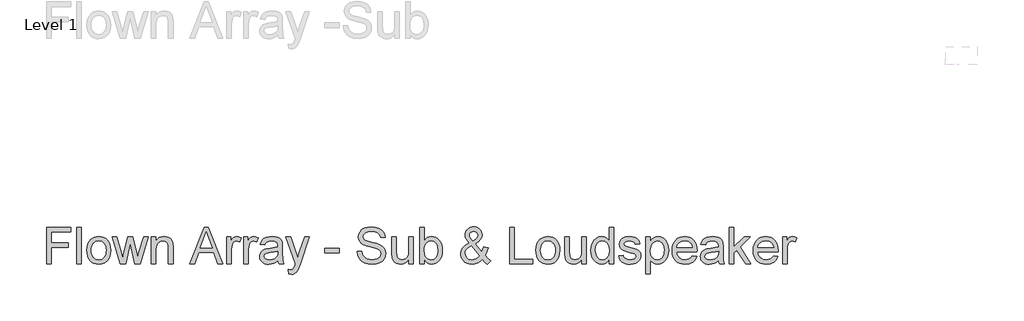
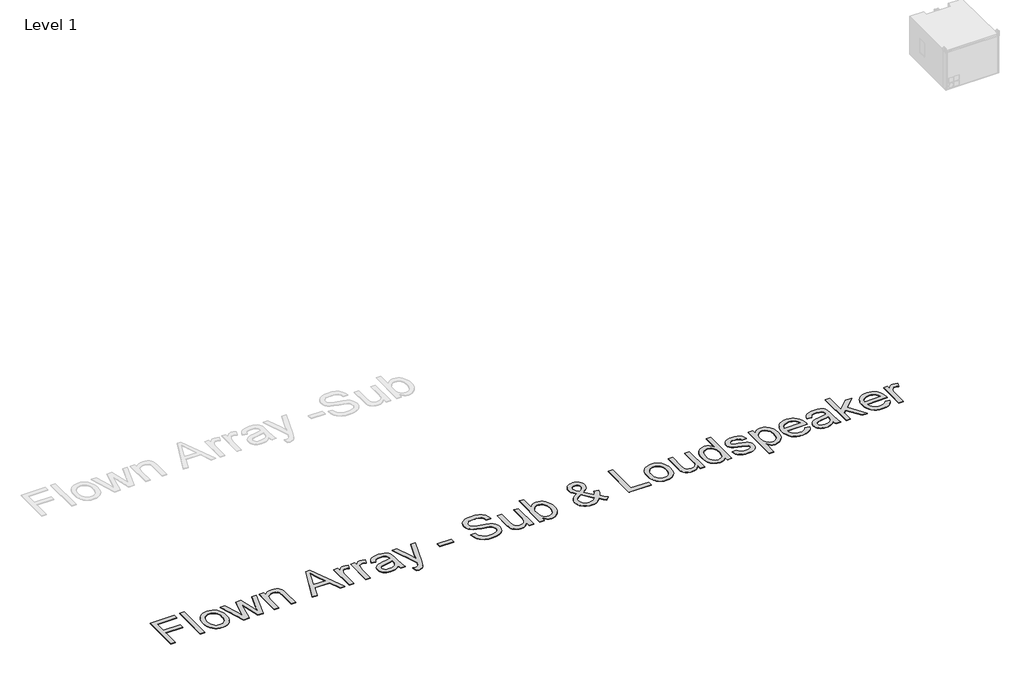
# One storey, part 26 of 31: 1 proxy.
"""IFC4 building model written with IfcOpenShell, lengths in millimetres."""

from ifc_helpers import new_model, si_unit, origin, origin_with_axes, place, context, project, spatial, polyline, outline, extrude, element, save

model = new_model("IFC4")

# Units and contexts
model_context = context("Model", 3, world=origin())
ifc_project = project(units=[si_unit("LENGTHUNIT", "METRE", prefix="MILLI")], contexts=[model_context])

# Site, building, storey
site = spatial("IfcSite", under=ifc_project)
building = spatial("IfcBuilding", under=site)
storey = spatial("IfcBuildingStorey", under=building, Name="Level 1", Elevation=0.0)

# Proxy
placement = place(None, origin())
element("IfcBuildingElementProxy", 1, Name="400mm Arial", ObjectType="400mm Arial", at=placement, inside=storey, context=model_context, shape_type="SweptSolid", body=[
    extrude(outline(polyline([(1720.3436653, 1663.8227268), (1720.3436653, 2065.6479674), (1990.3199988, 2065.6479674), (1990.3199988, 2015.4198123), (1770.5718204, 2015.4198123), (1770.5718204, 1896.127944), (1958.9274019, 1896.127944), (1958.9274019, 1845.899789), (1770.5718204, 1845.899789), (1770.5718204, 1663.8227268), (1720.3436653, 1663.8227268)])), origin_with_axes(), (0.0, 0.0, 1.0), 5.0),
    extrude(outline(polyline([(2053.1051927, 1663.8227268), (2053.1051927, 2065.6479674), (2103.3333477, 2065.6479674), (2103.3333477, 1663.8227268), (2053.1051927, 1663.8227268)])), origin_with_axes(), (0.0, 0.0, 1.0), 5.0),
    extrude(outline(polyline([(2166.1185416, 1811.3679324), (2168.834737, 1849.5847403), (2176.9833232, 1882.5163102), (2190.5643002, 1910.1626422), (2209.5776679, 1932.5237361), (2228.7197944, 1946.8159516), (2249.8484837, 1957.024677), (2272.9637357, 1963.1499122), (2298.0655505, 1965.1916573), (2325.7762618, 1962.7053881), (2350.8320914, 1955.2465807), (2373.2330392, 1942.8152349), (2392.9791053, 1925.4113509), (2409.0954024, 1903.6235397), (2420.6070431, 1878.0404126), (2427.5140276, 1848.6619696), (2429.8163557, 1815.4882107), (2425.7451283, 1764.7450208), (2413.5314461, 1726.1174113), (2393.5309283, 1697.1896238), (2366.0991942, 1675.5458997), (2333.5171121, 1662.0446305), (2298.0655505, 1657.5442074), (2269.950169, 1660.0212795), (2244.6613476, 1667.4524958), (2222.1990861, 1679.8378563), (2202.5633846, 1697.177361), (2186.6187658, 1719.1767044), (2175.2297523, 1745.5415807), (2168.3963443, 1776.27199), (2166.1185416, 1811.3679324)]), holes=[polyline([(2216.3466967, 1811.4660342), (2217.7998305, 1787.1030491), (2222.1592322, 1766.0080823), (2229.4249016, 1748.181134), (2239.5968388, 1733.622204), (2251.9699365, 1722.3128984), (2265.8390877, 1714.2348229), (2281.2042924, 1709.3879776), (2298.0655505, 1707.7723625), (2314.8409695, 1709.3971747), (2330.1448605, 1714.2716111), (2343.9772235, 1722.3956718), (2356.3380586, 1733.7693568), (2366.5099957, 1748.4723739), (2373.7756651, 1766.5844308), (2378.1350668, 1788.1055275), (2379.5882007, 1813.0356641), (2378.1258697, 1836.626097), (2373.7388769, 1857.1692408), (2366.4272223, 1874.6650953), (2356.1909058, 1889.1136607), (2343.7840855, 1900.4229663), (2329.9609195, 1908.5010418), (2314.7214079, 1913.3478871), (2298.0655505, 1914.9635022), (2281.2042924, 1913.3540185), (2265.8390877, 1908.5255673), (2251.9699365, 1900.4781486), (2239.5968388, 1889.2117625), (2229.4249016, 1874.6957521), (2222.1592322, 1856.8994606), (2217.7998305, 1835.822888), (2216.3466967, 1811.4660342)])]), origin_with_axes(), (0.0, 0.0, 1.0), 5.0),
    extrude(outline(polyline([(2535.6682685, 1663.8227268), (2445.5126542, 1958.9131379), (2497.6047447, 1958.9131379), (2548.6177147, 1786.7443641), (2563.8235038, 1725.2344945), (2576.2824407, 1784.4880212), (2616.7985111, 1958.9131379), (2676.4444453, 1958.9131379), (2716.9605157, 1784.9785306), (2728.0460265, 1731.3168102), (2743.9385287, 1787.9215865), (2794.9514987, 1958.9131379), (2847.3378948, 1958.9131379), (2756.8879749, 1663.8227268), (2696.2610221, 1663.8227268), (2657.6088871, 1836.8744174), (2646.4252745, 1890.8304433), (2596.6876287, 1663.8227268), (2535.6682685, 1663.8227268)])), origin_with_axes(), (0.0, 0.0, 1.0), 5.0),
    extrude(outline(polyline([(2881.8697514, 1663.8227268), (2881.8697514, 1958.9131379), (2932.0979065, 1958.9131379), (2932.0979065, 1917.7103544), (2949.5477758, 1938.4834244), (2970.5047868, 1953.3213316), (2994.9689395, 1962.2240758), (3022.9402338, 1965.1916573), (3047.6986921, 1962.8004243), (3070.3724857, 1955.6267254), (3089.2816203, 1944.5657401), (3102.7461013, 1930.5126479), (3111.8818375, 1913.5042369), (3117.8047376, 1893.5772955), (3120.453488, 1845.0168722), (3120.453488, 1663.8227268), (3070.2253329, 1663.8227268), (3070.2253329, 1838.2478435), (3068.7783304, 1864.2203123), (3064.4373229, 1882.6879885), (3056.4297581, 1895.9194776), (3043.9830839, 1906.1833852), (3028.0292681, 1912.768473), (3009.5002783, 1914.9635022), (2980.0819814, 1910.0338835), (2955.004692, 1895.2450273), (2944.9829734, 1883.1723664), (2937.8246029, 1866.672859), (2933.5295806, 1845.7465048), (2932.0979065, 1820.393304), (2932.0979065, 1663.8227268), (2881.8697514, 1663.8227268)])), origin_with_axes(), (0.0, 0.0, 1.0), 5.0),
    extrude(outline(polyline([(3306.0622173, 1663.8227268), (3466.4587672, 2065.6479674), (3509.2311805, 2065.6479674), (3669.5296285, 1663.8227268), (3616.4565194, 1663.8227268), (3570.5448464, 1789.3931145), (3404.9488976, 1789.3931145), (3359.0372246, 1663.8227268), (3306.0622173, 1663.8227268)]), holes=[polyline([(3423.3920483, 1839.6212696), (3552.1997975, 1839.6212696), (3515.9021074, 1938.409848), (3487.746872, 2015.4198123), (3462.7308963, 1947.0428122), (3423.3920483, 1839.6212696)])]), origin_with_axes(), (0.0, 0.0, 1.0), 5.0),
    extrude(outline(polyline([(3716.9128295, 1663.8227268), (3716.9128295, 1958.9131379), (3760.8624652, 1958.9131379), (3760.8624652, 1915.2578078), (3777.0983239, 1940.5680891), (3792.0588584, 1955.4795726), (3807.0684438, 1962.7636361), (3823.4514553, 1965.1916573), (3848.467431, 1961.3166336), (3873.8758141, 1949.6915625), (3857.1003951, 1904.6628063), (3839.4420594, 1912.3883282), (3821.7837236, 1914.9635022), (3806.7864009, 1912.4864301), (3793.3832336, 1905.0552138), (3782.5552402, 1893.233939), (3775.2834394, 1877.5866915), (3769.1765983, 1849.529558), (3767.1409846, 1818.921776), (3767.1409846, 1663.8227268), (3716.9128295, 1663.8227268)])), origin_with_axes(), (0.0, 0.0, 1.0), 5.0),
    extrude(outline(polyline([(3905.2684111, 1663.8227268), (3905.2684111, 1958.9131379), (3949.2180467, 1958.9131379), (3949.2180467, 1915.2578078), (3965.4539055, 1940.5680891), (3980.4144399, 1955.4795726), (3995.4240253, 1962.7636361), (4011.8070369, 1965.1916573), (4036.8230125, 1961.3166336), (4062.2313957, 1949.6915625), (4045.4559767, 1904.6628063), (4027.7976409, 1912.3883282), (4010.1393051, 1914.9635022), (3995.1419825, 1912.4864301), (3981.7388151, 1905.0552138), (3970.9108217, 1893.233939), (3963.639021, 1877.5866915), (3957.5321798, 1849.529558), (3955.4965661, 1818.921776), (3955.4965661, 1663.8227268), (3905.2684111, 1663.8227268)])), origin_with_axes(), (0.0, 0.0, 1.0), 5.0),
    extrude(outline(polyline([(4281.9795741, 1701.4938431), (4257.9814053, 1680.9169769), (4233.271998, 1667.4524958), (4207.2872664, 1660.0212795), (4179.4631248, 1657.5442074), (4157.0989652, 1659.0341295), (4137.4877891, 1663.5038958), (4120.6295967, 1670.9535062), (4106.5243879, 1681.3829607), (4095.3867605, 1694.1300719), (4087.4313123, 1708.532652), (4082.6580434, 1724.5907011), (4081.0669538, 1742.3042191), (4083.4704495, 1763.1263401), (4090.6809366, 1782.0354746), (4101.8032356, 1798.2222824), (4115.942167, 1810.877423), (4132.5581704, 1820.4423549), (4151.1116857, 1827.3585364), (4194.5708121, 1834.91238), (4245.9271386, 1842.8586311), (4281.6852685, 1852.1783084), (4281.9795741, 1863.361921), (4278.5214834, 1885.7781972), (4268.1472111, 1900.4444261), (4244.9461199, 1911.3337332), (4212.6215553, 1914.9635022), (4182.7004863, 1912.5477438), (4161.804789, 1905.3004685), (4147.5554931, 1891.8973011), (4137.5736283, 1871.0138665), (4087.3454732, 1877.2923859), (4096.0642765, 1904.7609082), (4109.0750364, 1926.3433186), (4127.5917635, 1942.8489574), (4152.8284683, 1955.0871651), (4183.6937677, 1962.6655342), (4219.0962784, 1965.1916573), (4253.0517866, 1962.9598398), (4279.9684859, 1956.2643875), (4300.2633093, 1946.1966836), (4314.3531897, 1933.8481113), (4323.6973924, 1918.5810085), (4329.7551826, 1899.7577131), (4332.2077292, 1855.8080774), (4332.2077292, 1793.3171891), (4334.7583777, 1706.0555799), (4344.764768, 1663.8227268), (4294.5366129, 1663.8227268), (4286.4922599, 1681.2848589), (4281.9795741, 1701.4938431)]), holes=[polyline([(4281.9795741, 1801.9501533), (4248.2325324, 1793.5869693), (4200.9474333, 1786.5481604), (4157.7335616, 1778.4057056), (4146.4886353, 1772.8384247), (4138.1622395, 1765.1619538), (4133.0118915, 1755.9649039), (4131.2951089, 1745.8358863), (4135.0352425, 1730.8998773), (4146.2556434, 1718.6616696), (4164.7110568, 1710.4946893), (4190.1562281, 1707.7723625), (4217.1342411, 1710.7767321), (4240.9729944, 1719.789841), (4260.2990619, 1733.070381), (4273.7390174, 1748.8770441), (4279.6987057, 1765.1619538), (4281.6852685, 1787.7253828), (4281.9795741, 1801.9501533)])]), origin_with_axes(), (0.0, 0.0, 1.0), 5.0),
    extrude(outline(polyline([(4401.2714424, 1550.8093779), (4394.992923, 1599.1735975), (4420.499408, 1594.7590136), (4433.9148381, 1596.1447024), (4444.3381613, 1600.301769), (4458.9553393, 1615.7528128), (4472.6896004, 1652.737216), (4476.613675, 1664.9018473), (4369.8788455, 1958.9131379), (4422.7557509, 1958.9131379), (4479.4586291, 1794.9849208), (4499.1771041, 1729.4528748), (4518.895579, 1787.4310772), (4577.0699852, 1958.9131379), (4629.5544832, 1958.9131379), (4526.8418301, 1656.7593925), (4500.1581227, 1591.2273464), (4486.497438, 1570.3071236), (4471.0218687, 1555.812573), (4453.0692273, 1547.3512871), (4431.9773263, 1544.5308585), (4401.2714424, 1550.8093779)])), origin_with_axes(), (0.0, 0.0, 1.0), 5.0),
    extrude(outline(polyline([(4803.096683, 1783.1145951), (4803.096683, 1833.3427502), (4960.0596676, 1833.3427502), (4960.0596676, 1783.1145951), (4803.096683, 1783.1145951)])), origin_with_axes(), (0.0, 0.0, 1.0), 5.0),
    extrude(outline(polyline([(5160.9722879, 1801.9501533), (5211.200443, 1801.9501533), (5216.9639276, 1774.0769608), (5227.3872508, 1751.6729473), (5243.647635, 1733.8919842), (5266.9223025, 1719.8879429), (5295.3718435, 1710.8012576), (5327.1568479, 1707.7723625), (5355.140405, 1710.0654936), (5379.6413459, 1716.9448869), (5399.4947109, 1727.834194), (5413.5355403, 1742.1570663), (5421.8864616, 1758.6013915), (5424.6701021, 1775.8550571), (5422.5854374, 1792.6672643), (5416.3314435, 1807.1986031), (5403.6272519, 1819.5962263), (5382.1919944, 1830.0072868), (5309.0570537, 1849.1862015), (5261.0484533, 1861.8781303), (5230.3303067, 1873.9569225), (5205.3265938, 1890.8549688), (5187.6069444, 1911.3337332), (5177.0487311, 1934.9517573), (5173.5293267, 1961.2675827), (5177.882597, 1990.6858795), (5190.9424078, 2018.1176136), (5212.3654026, 2041.3677557), (5241.808225, 2058.2412766), (5277.149422, 2068.5051842), (5316.2675408, 2071.9264868), (5358.6475467, 2068.3457687), (5395.7300518, 2057.6036145), (5426.190681, 2039.9207532), (5448.7050591, 2015.5179142), (5462.954355, 1985.9156763), (5468.6197378, 1952.6346185), (5418.3915827, 1952.6346185), (5409.1700073, 1982.6047384), (5400.8068233, 1994.4628014), (5389.9420417, 2004.2361997), (5359.8983454, 2017.3327987), (5318.2295781, 2021.6983317), (5275.5797922, 2017.3818497), (5259.2764884, 2011.9862471), (5246.3209108, 2004.4324034), (5229.398339, 1985.3761161), (5223.7574818, 1962.7391106), (5227.7551328, 1943.4375686), (5239.7480858, 1927.9129484), (5268.0995249, 1914.0315345), (5321.7612453, 1899.8558149), (5377.1397483, 1886.3913339), (5410.6415353, 1874.6436355), (5439.2750173, 1856.421214), (5459.2510096, 1833.9313614), (5470.9864453, 1807.4193323), (5474.8982571, 1777.1303813), (5470.3978341, 1746.1669801), (5456.8965648, 1717.0429888), (5434.9462725, 1691.9779622), (5405.0987799, 1673.191455), (5369.2057599, 1661.4560193), (5329.1188852, 1657.5442074), (5279.908537, 1661.7625876), (5239.4047293, 1674.4177283), (5207.1414783, 1695.5586803), (5182.6528002, 1725.2344945), (5166.9319762, 1761.3850319), (5160.9722879, 1801.9501533)])), origin_with_axes(), (0.0, 0.0, 1.0), 5.0),
    extrude(outline(polyline([(5732.3175519, 1663.8227268), (5732.3175519, 1714.5413912), (5714.1441813, 1689.6051233), (5692.9787039, 1671.7935034), (5668.8211195, 1661.1065314), (5641.6714283, 1657.5442074), (5617.2072756, 1660.045805), (5594.4353801, 1667.5505977), (5575.3300418, 1678.8323122), (5561.8655608, 1692.6646752), (5552.803401, 1709.4646197), (5546.9050263, 1729.6490785), (5543.9619704, 1776.3455664), (5543.9619704, 1958.9131379), (5594.1901254, 1958.9131379), (5594.1901254, 1799.988116), (5597.2312833, 1748.7789422), (5604.552135, 1731.6969549), (5617.096911, 1718.7107205), (5634.0317455, 1710.506952), (5654.5227727, 1707.7723625), (5676.1910222, 1710.5682657), (5696.4613201, 1718.9559752), (5713.1754254, 1732.1629388), (5724.1750971, 1749.4166044), (5730.2819382, 1773.0468912), (5732.3175519, 1805.3837186), (5732.3175519, 1958.9131379), (5782.545707, 1958.9131379), (5782.545707, 1663.8227268), (5732.3175519, 1663.8227268)])), origin_with_axes(), (0.0, 0.0, 1.0), 5.0),
    extrude(outline(polyline([(5901.8375753, 1663.8227268), (5851.6094202, 1663.8227268), (5851.6094202, 2065.6479674), (5901.8375753, 2065.6479674), (5901.8375753, 1916.6312339), (5918.3554769, 1937.8764191), (5937.007094, 1953.0515514), (5957.7924267, 1962.1566308), (5980.711475, 1965.1916573), (6006.585842, 1962.4570678), (6031.037732, 1954.2532993), (6052.6691933, 1941.0953866), (6070.0822744, 1923.4983645), (6083.7306964, 1901.6339112), (6094.0681805, 1875.6737051), (6100.5796918, 1846.6968666), (6102.7501956, 1815.7825163), (6100.5030497, 1780.1102255), (6093.7616122, 1748.7298913), (6082.5258829, 1721.6415137), (6066.7958619, 1698.8450928), (6047.9143185, 1680.7759554), (6027.224022, 1667.8694288), (6004.7249723, 1660.1255128), (5980.4171694, 1657.5442074), (5956.7439631, 1660.8735395), (5935.7562952, 1670.8615357), (5917.454166, 1687.5081959), (5901.8375753, 1710.8135203), (5901.8375753, 1663.8227268)]), holes=[polyline([(5901.8375753, 1813.4280715), (5905.2711406, 1771.538575), (5915.5718364, 1743.1871359), (5927.7425991, 1727.6931725), (5941.8876618, 1716.6260559), (5958.0070246, 1709.9857858), (5976.1006874, 1707.7723625), (5991.1225355, 1709.403306), (6005.0897886, 1714.2961366), (6018.0024466, 1722.4508541), (6029.8605096, 1733.8674587), (6039.7749294, 1748.5152935), (6046.8566578, 1766.3637016), (6051.1056948, 1787.4126831), (6052.5220405, 1811.6622379), (6047.0896497, 1857.6229619), (6040.2991612, 1875.4161877), (6030.7924773, 1889.7513228), (6019.3605443, 1900.7816513), (6006.7943085, 1908.6604573), (5993.0937699, 1913.387741), (5978.2589284, 1914.9635022), (5963.2370803, 1913.3325587), (5949.2698272, 1908.4397281), (5936.3571692, 1900.2850106), (5924.4991062, 1888.868406), (5914.5846864, 1874.367724), (5907.502958, 1856.9607743), (5903.253921, 1836.6475568), (5901.8375753, 1813.4280715)])]), origin_with_axes(), (0.0, 0.0, 1.0), 5.0),
    extrude(outline(polyline([(6546.6611364, 1713.4622707), (6521.130126, 1688.998118), (6493.3918235, 1671.5237233), (6463.3971782, 1661.0390864), (6431.097139, 1657.5442074), (6401.7892067, 1660.1316441), (6375.6695851, 1667.8939542), (6352.738274, 1680.8311377), (6332.9952736, 1698.9431946), (6320.1623234, 1716.3133562), (6310.9959303, 1734.6767991), (6305.4960945, 1754.0335234), (6303.6628159, 1774.3835291), (6309.5611905, 1809.5775733), (6327.2563145, 1841.1908994), (6356.6746114, 1869.198982), (6397.7425048, 1893.5772955), (6375.8290006, 1921.9287346), (6362.6710879, 1944.3940618), (6356.0860002, 1963.5729765), (6353.8909709, 1982.0651781), (6355.6200163, 1999.6192807), (6360.8071525, 2015.9838981), (6369.4523793, 2031.1590304), (6381.555697, 2045.1446776), (6396.2771082, 2056.8617191), (6412.7766156, 2065.2310345), (6431.0542194, 2070.2526237), (6451.1099195, 2071.9264868), (6470.2581774, 2070.3262001), (6487.579288, 2065.5253401), (6503.0732514, 2057.5239067), (6516.7400675, 2046.3218999), (6527.8991547, 2032.875813), (6535.8699312, 2018.1421391), (6540.6523972, 2002.1208782), (6542.2465525, 1984.8120303), (6537.5254002, 1956.8284732), (6523.3619434, 1930.9541063), (6499.756182, 1907.1889294), (6466.7081161, 1885.5329426), (6539.4015984, 1794.9849208), (6551.7869589, 1820.8592878), (6561.0821106, 1850.6086785), (6611.3102657, 1839.7193714), (6595.8592219, 1793.1945618), (6575.7973904, 1757.0194989), (6604.3450333, 1723.7139156), (6636.4243432, 1696.1963424), (6598.7532269, 1657.5442074), (6573.1241146, 1680.9905533), (6546.6611364, 1713.4622707)]), holes=[polyline([(6513.0121966, 1749.661859), (6423.3470916, 1861.5960874), (6389.0972779, 1839.7438969), (6368.1647924, 1819.5103872), (6357.4594263, 1800.1843197), (6353.8909709, 1781.0544559), (6358.7715388, 1757.3628555), (6373.4132422, 1732.7883382), (6384.1921846, 1721.8438488), (6397.0067408, 1714.0263564), (6411.8569107, 1709.335861), (6428.7426942, 1707.7723625), (6451.4655388, 1710.690893), (6474.8996219, 1719.4464845), (6496.3226167, 1732.8373891), (6513.0121966, 1749.661859)]), polyline([(6441.299733, 1917.2198451), (6467.5665075, 1933.8848995), (6482.6006183, 1948.3671874), (6489.6639526, 1962.4570678), (6492.0183974, 1977.9448998), (6488.9159259, 1995.4928709), (6479.6085114, 2009.4846495), (6465.6412583, 2018.6449112), (6448.559271, 2021.6983317), (6431.1094017, 2018.6694366), (6416.8233176, 2009.5827514), (6407.2951739, 1996.1305331), (6404.119126, 1980.0050389), (6408.4356081, 1961.6109392), (6421.4831562, 1941.1567003), (6441.299733, 1917.2198451)])]), origin_with_axes(), (0.0, 0.0, 1.0), 5.0),
    extrude(outline(polyline([(6849.8940023, 1663.8227268), (6849.8940023, 2065.6479674), (6900.1221574, 2065.6479674), (6900.1221574, 1714.0508819), (7101.0347777, 1714.0508819), (7101.0347777, 1663.8227268), (6849.8940023, 1663.8227268)])), origin_with_axes(), (0.0, 0.0, 1.0), 5.0),
    extrude(outline(polyline([(7138.705894, 1811.3679324), (7141.4220894, 1849.5847403), (7149.5706756, 1882.5163102), (7163.1516526, 1910.1626422), (7182.1650204, 1932.5237361), (7201.3071468, 1946.8159516), (7222.4358361, 1957.024677), (7245.5510881, 1963.1499122), (7270.6529029, 1965.1916573), (7298.3636142, 1962.7053881), (7323.4194438, 1955.2465807), (7345.8203916, 1942.8152349), (7365.5664577, 1925.4113509), (7381.6827548, 1903.6235397), (7393.1943955, 1878.0404126), (7400.10138, 1848.6619696), (7402.4037081, 1815.4882107), (7398.3324807, 1764.7450208), (7386.1187985, 1726.1174113), (7366.1182807, 1697.1896238), (7338.6865466, 1675.5458997), (7306.1044645, 1662.0446305), (7270.6529029, 1657.5442074), (7242.5375214, 1660.0212795), (7217.2487, 1667.4524958), (7194.7864385, 1679.8378563), (7175.150737, 1697.177361), (7159.2061182, 1719.1767044), (7147.8171047, 1745.5415807), (7140.9836967, 1776.27199), (7138.705894, 1811.3679324)]), holes=[polyline([(7188.9340491, 1811.4660342), (7190.3871829, 1787.1030491), (7194.7465846, 1766.0080823), (7202.012254, 1748.181134), (7212.1841912, 1733.622204), (7224.5572889, 1722.3128984), (7238.4264402, 1714.2348229), (7253.7916448, 1709.3879776), (7270.6529029, 1707.7723625), (7287.4283219, 1709.3971747), (7302.7322129, 1714.2716111), (7316.5645759, 1722.3956718), (7328.925411, 1733.7693568), (7339.0973481, 1748.4723739), (7346.3630175, 1766.5844308), (7350.7224192, 1788.1055275), (7352.1755531, 1813.0356641), (7350.7132221, 1836.626097), (7346.3262293, 1857.1692408), (7339.0145747, 1874.6650953), (7328.7782582, 1889.1136607), (7316.3714379, 1900.4229663), (7302.5482719, 1908.5010418), (7287.3087603, 1913.3478871), (7270.6529029, 1914.9635022), (7253.7916448, 1913.3540185), (7238.4264402, 1908.5255673), (7224.5572889, 1900.4781486), (7212.1841912, 1889.2117625), (7202.012254, 1874.6957521), (7194.7465846, 1856.8994606), (7190.3871829, 1835.822888), (7188.9340491, 1811.4660342)])]), origin_with_axes(), (0.0, 0.0, 1.0), 5.0),
    extrude(outline(polyline([(7647.2659641, 1663.8227268), (7647.2659641, 1714.5413912), (7629.0925936, 1689.6051233), (7607.9271161, 1671.7935034), (7583.7695318, 1661.1065314), (7556.6198405, 1657.5442074), (7532.1556878, 1660.045805), (7509.3837923, 1667.5505977), (7490.278454, 1678.8323122), (7476.813973, 1692.6646752), (7467.7518132, 1709.4646197), (7461.8534386, 1729.6490785), (7458.9103826, 1776.3455664), (7458.9103826, 1958.9131379), (7509.1385377, 1958.9131379), (7509.1385377, 1799.988116), (7512.1796955, 1748.7789422), (7519.5005472, 1731.6969549), (7532.0453232, 1718.7107205), (7548.9801577, 1710.506952), (7569.4711849, 1707.7723625), (7591.1394344, 1710.5682657), (7611.4097323, 1718.9559752), (7628.1238376, 1732.1629388), (7639.1235093, 1749.4166044), (7645.2303504, 1773.0468912), (7647.2659641, 1805.3837186), (7647.2659641, 1958.9131379), (7697.4941192, 1958.9131379), (7697.4941192, 1663.8227268), (7647.2659641, 1663.8227268)])), origin_with_axes(), (0.0, 0.0, 1.0), 5.0),
    extrude(outline(polyline([(7948.6348946, 1663.8227268), (7948.6348946, 1711.2059278), (7933.6069151, 1687.7289251), (7915.4028877, 1670.9596375), (7894.0228124, 1660.898065), (7869.4666892, 1657.5442074), (7836.9949718, 1662.4002498), (7807.2701066, 1676.9683768), (7782.1069781, 1700.2307816), (7763.3204709, 1731.1696574), (7751.6218234, 1768.5342054), (7747.7222743, 1811.0736268), (7751.3152551, 1853.0857506), (7762.0941976, 1891.026647), (7780.0468389, 1922.738075), (7805.1609165, 1946.0617935), (7835.5357065, 1960.4091913), (7869.2704855, 1965.1916573), (7893.8450028, 1961.7703547), (7915.5745659, 1951.506447), (7933.9931912, 1935.7733604), (7948.6348946, 1915.9445208), (7948.6348946, 2065.6479674), (7998.8630496, 2065.6479674), (7998.8630496, 1663.8227268), (7948.6348946, 1663.8227268)]), holes=[polyline([(7797.9504293, 1811.2698305), (7799.366775, 1786.9129767), (7803.6158121, 1765.8364041), (7810.6975405, 1748.0401126), (7820.6119603, 1733.5241022), (7845.3091049, 1714.2102974), (7859.1843874, 1709.3818462), (7874.0774769, 1707.7723625), (7889.041077, 1709.3082698), (7902.8335862, 1713.9159918), (7926.9053314, 1732.3468798), (7936.4120153, 1746.2558849), (7943.2025038, 1763.4083829), (7948.6348946, 1807.4438577), (7943.1044019, 1855.5873482), (7936.1912861, 1874.1224694), (7926.5129239, 1888.9665079), (7914.8112108, 1900.3401929), (7901.8280421, 1908.4642536), (7887.5634177, 1913.33869), (7872.0173377, 1914.9635022), (7856.8299427, 1913.4030694), (7842.9546601, 1908.721771), (7830.39149, 1900.919607), (7819.1404323, 1889.9965775), (7809.869806, 1875.713559), (7803.2479301, 1857.8314283), (7797.9504293, 1811.2698305)])]), origin_with_axes(), (0.0, 0.0, 1.0), 5.0),
    extrude(outline(polyline([(8055.3697241, 1751.7219982), (8105.5978792, 1758.0005176), (8113.5196048, 1736.5162091), (8128.8480213, 1720.7218087), (8151.6812304, 1711.0097241), (8182.1173342, 1707.7723625), (8212.1855559, 1710.7399439), (8233.3265079, 1719.6426882), (8245.8344957, 1732.5430835), (8250.003825, 1747.503618), (8245.8099703, 1760.3059114), (8233.228406, 1770.067047), (8181.528723, 1784.3899194), (8105.8921848, 1808.9644366), (8086.7500583, 1821.313009), (8072.8809071, 1837.6592323), (8064.4564094, 1856.9607743), (8061.6482435, 1878.1753027), (8063.9045864, 1897.6362602), (8070.6736151, 1915.6011643), (8081.342193, 1931.3587764), (8095.2971833, 1944.1978581), (8127.2293405, 1959.0602907), (8148.1127751, 1963.6588156), (8170.4432122, 1965.1916573), (8203.1356588, 1962.7268479), (8231.5606743, 1955.3324198), (8254.418409, 1943.7318742), (8270.409013, 1928.6487124), (8281.0040145, 1908.9670257), (8287.6749413, 1883.5709053), (8237.4467863, 1877.2923859), (8231.1069532, 1893.0990489), (8218.5621772, 1905.0061629), (8199.6898308, 1912.4741674), (8174.3672868, 1914.9635022), (8145.5253384, 1912.584532), (8126.2973728, 1905.4476213), (8115.4816421, 1895.1469254), (8111.8763986, 1883.2765997), (8117.8606124, 1868.6594217), (8136.5980686, 1857.5739109), (8179.8609913, 1846.8808076), (8253.5845431, 1823.2382581), (8273.0577634, 1811.9320181), (8287.8220941, 1796.4564488), (8297.1295086, 1776.7624993), (8300.2319801, 1752.8011187), (8296.5899483, 1728.0303977), (8285.6638531, 1704.7312047), (8267.8706273, 1684.7306869), (8243.6272038, 1669.8559915), (8214.343797, 1660.6221535), (8181.4306211, 1657.5442074), (8154.3974258, 1659.0279981), (8130.7855331, 1663.4793703), (8110.5949429, 1670.8983239), (8093.8256553, 1681.2848589), (8080.1281824, 1694.5899243), (8069.1530362, 1710.7644694), (8060.9002168, 1729.808494), (8055.3697241, 1751.7219982)])), origin_with_axes(), (0.0, 0.0, 1.0), 5.0),
    extrude(outline(polyline([(8356.7386546, 1550.8093779), (8356.7386546, 1958.9131379), (8406.9668096, 1958.9131379), (8406.9668096, 1909.6660015), (8423.3498211, 1933.9584759), (8441.69487, 1951.3102433), (8463.0810766, 1961.7213038), (8488.5875616, 1965.1916573), (8522.5553325, 1960.3356149), (8552.2556723, 1945.7674879), (8576.4377821, 1922.370193), (8593.8508632, 1891.026647), (8604.3722882, 1854.0177183), (8607.8794299, 1813.6242753), (8603.9185671, 1770.667921), (8592.0359787, 1732.2487779), (8572.6118093, 1700.3166207), (8546.0262038, 1676.821224), (8515.0628025, 1662.3634616), (8482.505246, 1657.5442074), (8459.4145194, 1660.7693063), (8438.8008649, 1670.4446027), (8421.1547919, 1685.0495179), (8406.9668096, 1703.063473), (8406.9668096, 1550.8093779), (8356.7386546, 1550.8093779)]), holes=[polyline([(8406.9668096, 1809.0134876), (8412.3992004, 1763.9847314), (8419.1896889, 1746.5471248), (8428.6963728, 1732.4940326), (8452.7435926, 1713.95278), (8466.5054449, 1709.3174669), (8481.4261255, 1707.7723625), (8496.5614039, 1709.3726492), (8510.5746422, 1714.1735092), (8523.4658405, 1722.1749426), (8535.2349986, 1733.3769494), (8545.0421195, 1747.938945), (8552.0472058, 1766.0203451), (8556.2502576, 1787.6211496), (8557.6512749, 1812.7413585), (8552.1820959, 1857.52486), (8545.3456221, 1875.0973566), (8535.7745589, 1889.4570172), (8511.7641273, 1908.5868809), (8498.1586249, 1913.3693469), (8483.4862646, 1914.9635022), (8468.8598896, 1913.2681793), (8455.0980373, 1908.1822107), (8430.1679008, 1887.8383364), (8420.0174234, 1872.7398462), (8412.7670824, 1854.5695413), (8408.4168778, 1833.3274218), (8406.9668096, 1809.0134876)])]), origin_with_axes(), (0.0, 0.0, 1.0), 5.0),
    extrude(outline(polyline([(8870.9886329, 1751.7219982), (8920.2357693, 1745.4434788), (8912.6849913, 1725.7188725), (8902.4915944, 1708.3364482), (8889.6555785, 1693.296206), (8874.1769435, 1680.5981458), (8856.2151051, 1670.5120478), (8835.9294787, 1663.307692), (8788.3868622, 1657.5442074), (8757.2211259, 1660.0304766), (8729.4521666, 1667.489284), (8705.0799844, 1679.9206298), (8684.1045793, 1697.3245138), (8667.2371899, 1719.2165582), (8655.1890545, 1745.112385), (8647.9601733, 1775.0119942), (8645.5505462, 1808.9153857), (8647.9846988, 1843.9684085), (8655.2871564, 1874.8643647), (8667.457919, 1901.6032544), (8684.4969868, 1924.1850775), (8705.4172096, 1942.1254562), (8729.2314374, 1954.9400123), (8755.9396703, 1962.628746), (8785.5419081, 1965.1916573), (8814.1907185, 1962.6348774), (8840.098808, 1954.9645378), (8863.2661767, 1942.1806385), (8883.6928244, 1924.2831794), (8900.3670759, 1901.7504072), (8912.2772555, 1875.0605685), (8919.4233632, 1844.2136632), (8921.8053991, 1809.2096913), (8921.5110936, 1795.6716339), (8695.7787013, 1795.6716339), (8698.6880348, 1775.6281965), (8704.4729791, 1758.074094), (8713.1335344, 1743.0093263), (8724.6697007, 1730.4338934), (8738.4438157, 1720.5194736), (8753.8182174, 1713.4377452), (8789.3678809, 1707.7723625), (8816.1006392, 1710.3965874), (8838.6150173, 1718.2692621), (8856.9110152, 1731.8808959), (8870.9886329, 1751.7219982)]), holes=[polyline([(8695.7787013, 1845.899789), (8871.5772441, 1845.899789), (8864.7836899, 1872.4363436), (8851.4663617, 1891.4190545), (8837.7688887, 1901.7197504), (8822.1829549, 1909.0773903), (8804.7085601, 1913.4919742), (8785.3457044, 1914.9635022), (8751.4882981, 1910.2668754), (8723.4924783, 1896.176995), (8704.0315207, 1874.2144399), (8695.7787013, 1845.899789)])]), origin_with_axes(), (0.0, 0.0, 1.0), 5.0),
    extrude(outline(polyline([(9160.3891358, 1701.4938431), (9136.3909669, 1680.9169769), (9111.6815596, 1667.4524958), (9085.696828, 1660.0212795), (9057.8726864, 1657.5442074), (9035.5085268, 1659.0341295), (9015.8973508, 1663.5038958), (8999.0391584, 1670.9535062), (8984.9339495, 1681.3829607), (8973.7963221, 1694.1300719), (8965.840874, 1708.532652), (8961.0676051, 1724.5907011), (8959.4765155, 1742.3042191), (8961.8800112, 1763.1263401), (8969.0904983, 1782.0354746), (8980.2127972, 1798.2222824), (8994.3517286, 1810.877423), (9010.967732, 1820.4423549), (9029.5212473, 1827.3585364), (9072.9803737, 1834.91238), (9124.3367002, 1842.8586311), (9160.0948302, 1852.1783084), (9160.3891358, 1863.361921), (9156.931045, 1885.7781972), (9146.5567727, 1900.4444261), (9123.3556816, 1911.3337332), (9091.0311169, 1914.9635022), (9061.110048, 1912.5477438), (9040.2143507, 1905.3004685), (9025.9650547, 1891.8973011), (9015.9831899, 1871.0138665), (8965.7550348, 1877.2923859), (8974.4738381, 1904.7609082), (8987.484598, 1926.3433186), (9006.0013251, 1942.8489574), (9031.23803, 1955.0871651), (9062.1033294, 1962.6655342), (9097.50584, 1965.1916573), (9131.4613482, 1962.9598398), (9158.3780475, 1956.2643875), (9178.6728709, 1946.1966836), (9192.7627513, 1933.8481113), (9202.106954, 1918.5810085), (9208.1647442, 1899.7577131), (9210.6172908, 1855.8080774), (9210.6172908, 1793.3171891), (9213.1679393, 1706.0555799), (9223.1743296, 1663.8227268), (9172.9461745, 1663.8227268), (9164.9018216, 1681.2848589), (9160.3891358, 1701.4938431)]), holes=[polyline([(9160.3891358, 1801.9501533), (9126.6420941, 1793.5869693), (9079.3569949, 1786.5481604), (9036.1431232, 1778.4057056), (9024.8981969, 1772.8384247), (9016.5718011, 1765.1619538), (9011.4214532, 1755.9649039), (9009.7046705, 1745.8358863), (9013.4448041, 1730.8998773), (9024.665205, 1718.6616696), (9043.1206184, 1710.4946893), (9068.5657898, 1707.7723625), (9095.5438027, 1710.7767321), (9119.382556, 1719.789841), (9138.7086235, 1733.070381), (9152.1485791, 1748.8770441), (9158.1082674, 1765.1619538), (9160.0948302, 1787.7253828), (9160.3891358, 1801.9501533)])]), origin_with_axes(), (0.0, 0.0, 1.0), 5.0),
    extrude(outline(polyline([(9279.6810041, 1663.8227268), (9279.6810041, 2065.6479674), (9329.9091591, 2065.6479674), (9329.9091591, 1849.7257617), (9442.5301006, 1958.9131379), (9511.9862213, 1958.9131379), (9397.8937518, 1848.3523356), (9518.2647407, 1663.8227268), (9459.5998252, 1663.8227268), (9361.8903672, 1813.4280715), (9329.9091591, 1782.3297802), (9329.9091591, 1663.8227268), (9279.6810041, 1663.8227268)])), origin_with_axes(), (0.0, 0.0, 1.0), 5.0),
    extrude(outline(polyline([(9768.8169048, 1751.7219982), (9818.0640413, 1745.4434788), (9810.5132633, 1725.7188725), (9800.3198664, 1708.3364482), (9787.4838504, 1693.296206), (9772.0052155, 1680.5981458), (9754.0433771, 1670.5120478), (9733.7577507, 1663.307692), (9686.2151342, 1657.5442074), (9655.0493978, 1660.0304766), (9627.2804386, 1667.489284), (9602.9082564, 1679.9206298), (9581.9328513, 1697.3245138), (9565.0654618, 1719.2165582), (9553.0173265, 1745.112385), (9545.7884453, 1775.0119942), (9543.3788182, 1808.9153857), (9545.8129707, 1843.9684085), (9553.1154283, 1874.8643647), (9565.286191, 1901.6032544), (9582.3252588, 1924.1850775), (9603.2454815, 1942.1254562), (9627.0597094, 1954.9400123), (9653.7679422, 1962.628746), (9683.3701801, 1965.1916573), (9712.0189905, 1962.6348774), (9737.92708, 1954.9645378), (9761.0944486, 1942.1806385), (9781.5210964, 1924.2831794), (9798.1953478, 1901.7504072), (9810.1055274, 1875.0605685), (9817.2516352, 1844.2136632), (9819.6336711, 1809.2096913), (9819.3393655, 1795.6716339), (9593.6069733, 1795.6716339), (9596.5163067, 1775.6281965), (9602.3012511, 1758.074094), (9610.9618064, 1743.0093263), (9622.4979726, 1730.4338934), (9636.2720877, 1720.5194736), (9651.6464894, 1713.4377452), (9687.1961528, 1707.7723625), (9713.9289112, 1710.3965874), (9736.4432893, 1718.2692621), (9754.7392872, 1731.8808959), (9768.8169048, 1751.7219982)]), holes=[polyline([(9593.6069733, 1845.899789), (9769.405516, 1845.899789), (9762.6119619, 1872.4363436), (9749.2946336, 1891.4190545), (9735.5971607, 1901.7197504), (9720.0112268, 1909.0773903), (9702.536832, 1913.4919742), (9683.1739764, 1914.9635022), (9649.3165701, 1910.2668754), (9621.3207502, 1896.176995), (9601.8597927, 1874.2144399), (9593.6069733, 1845.899789)])]), origin_with_axes(), (0.0, 0.0, 1.0), 5.0),
    extrude(outline(polyline([(9869.8618262, 1663.8227268), (9869.8618262, 1958.9131379), (9913.8114619, 1958.9131379), (9913.8114619, 1915.2578078), (9930.0473206, 1940.5680891), (9945.0078551, 1955.4795726), (9960.0174405, 1962.7636361), (9976.400452, 1965.1916573), (10001.4164277, 1961.3166336), (10026.8248108, 1949.6915625), (10010.0493918, 1904.6628063), (9992.391056, 1912.3883282), (9974.7327203, 1914.9635022), (9959.7353976, 1912.4864301), (9946.3322302, 1905.0552138), (9935.5042369, 1893.233939), (9928.2324361, 1877.5866915), (9922.125595, 1849.529558), (9920.0899813, 1818.921776), (9920.0899813, 1663.8227268), (9869.8618262, 1663.8227268)])), origin_with_axes(), (0.0, 0.0, 1.0), 5.0),
])

save(model, "model.ifc")
